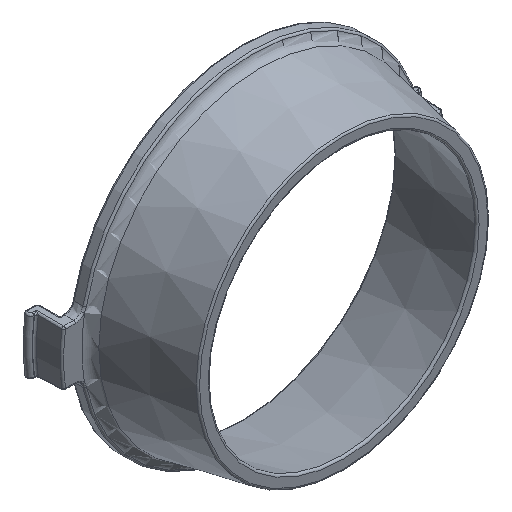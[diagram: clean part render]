
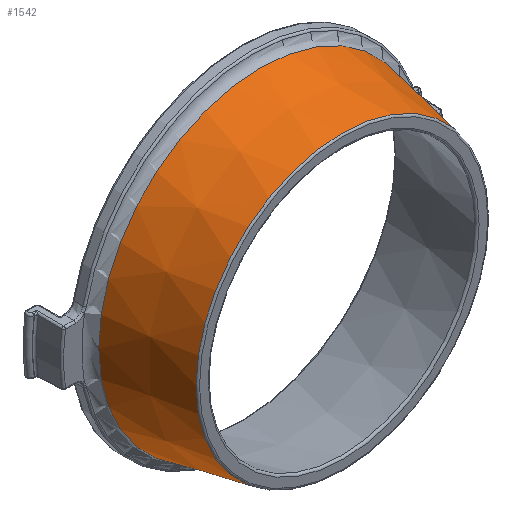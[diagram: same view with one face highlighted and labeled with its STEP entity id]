
A CAD part, isometric view. The second image highlights one B-rep face of the part: STEP entity #1542.
In plain terms, the highlighted conical face has half-angle 11.19 degrees and reference radius 8.187 mm.
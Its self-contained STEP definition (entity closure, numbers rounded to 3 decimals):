
#63=LINE('',#3671,#97);
#97=VECTOR('',#2031,8.187);
#128=CONICAL_SURFACE('',#1709,8.187,0.195);
#224=FACE_OUTER_BOUND('',#332,.T.);
#332=EDGE_LOOP('',(#1270,#1271,#1272,#1273,#1274,#1275));
#531=CIRCLE('',#1703,7.668);
#534=CIRCLE('',#1706,7.668);
#536=CIRCLE('',#1710,8.512);
#537=CIRCLE('',#1711,8.512);
#673=VERTEX_POINT('',#3657);
#674=VERTEX_POINT('',#3658);
#677=VERTEX_POINT('',#3668);
#678=VERTEX_POINT('',#3669);
#881=EDGE_CURVE('',#673,#674,#531,.T.);
#884=EDGE_CURVE('',#674,#673,#534,.T.);
#886=EDGE_CURVE('',#677,#678,#536,.T.);
#887=EDGE_CURVE('',#677,#673,#63,.T.);
#888=EDGE_CURVE('',#678,#677,#537,.T.);
#1270=ORIENTED_EDGE('',*,*,#886,.F.);
#1271=ORIENTED_EDGE('',*,*,#887,.T.);
#1272=ORIENTED_EDGE('',*,*,#884,.F.);
#1273=ORIENTED_EDGE('',*,*,#881,.F.);
#1274=ORIENTED_EDGE('',*,*,#887,.F.);
#1275=ORIENTED_EDGE('',*,*,#888,.F.);
#1542=ADVANCED_FACE('',(#224),#128,.T.);
#1703=AXIS2_PLACEMENT_3D('',#3659,#2015,#2016);
#1706=AXIS2_PLACEMENT_3D('',#3663,#2021,#2022);
#1709=AXIS2_PLACEMENT_3D('',#3667,#2027,#2028);
#1710=AXIS2_PLACEMENT_3D('',#3670,#2029,#2030);
#1711=AXIS2_PLACEMENT_3D('',#3672,#2032,#2033);
#2015=DIRECTION('center_axis',(0.,-1.,0.));
#2016=DIRECTION('ref_axis',(1.,0.,0.));
#2021=DIRECTION('center_axis',(0.,-1.,0.));
#2022=DIRECTION('ref_axis',(1.,0.,0.));
#2027=DIRECTION('center_axis',(0.,1.,0.));
#2028=DIRECTION('ref_axis',(-1.,0.,0.));
#2029=DIRECTION('center_axis',(0.,1.,0.));
#2030=DIRECTION('ref_axis',(0.986,0.,-0.167));
#2031=DIRECTION('',(-0.194,-0.981,0.));
#2032=DIRECTION('center_axis',(0.,1.,0.));
#2033=DIRECTION('ref_axis',(0.986,0.,-0.167));
#3657=CARTESIAN_POINT('',(7.668,0.081,0.));
#3658=CARTESIAN_POINT('',(0.,0.081,-7.668));
#3659=CARTESIAN_POINT('Origin',(0.,0.081,0.));
#3663=CARTESIAN_POINT('Origin',(0.,0.081,0.));
#3667=CARTESIAN_POINT('Origin',(0.,2.7,0.));
#3668=CARTESIAN_POINT('',(8.512,4.347,0.));
#3669=CARTESIAN_POINT('',(0.,4.347,8.512));
#3670=CARTESIAN_POINT('Origin',(0.,4.347,0.));
#3671=CARTESIAN_POINT('',(8.187,2.7,0.));
#3672=CARTESIAN_POINT('Origin',(0.,4.347,0.));
